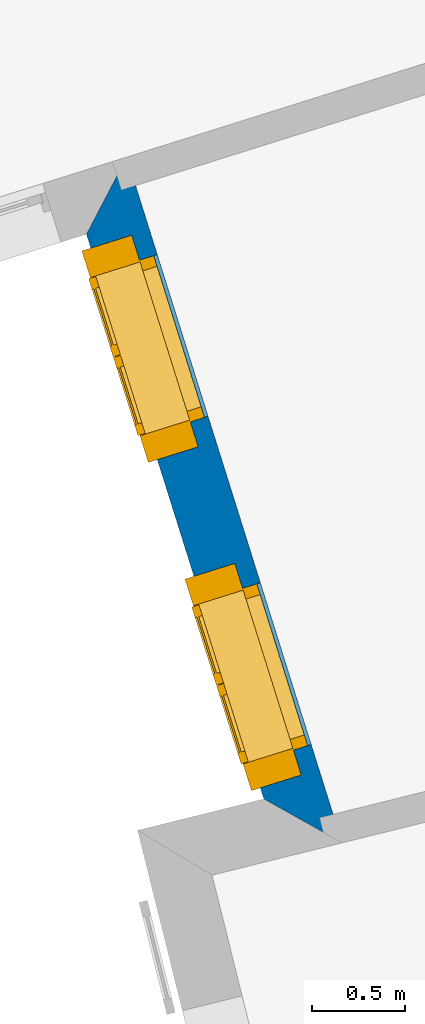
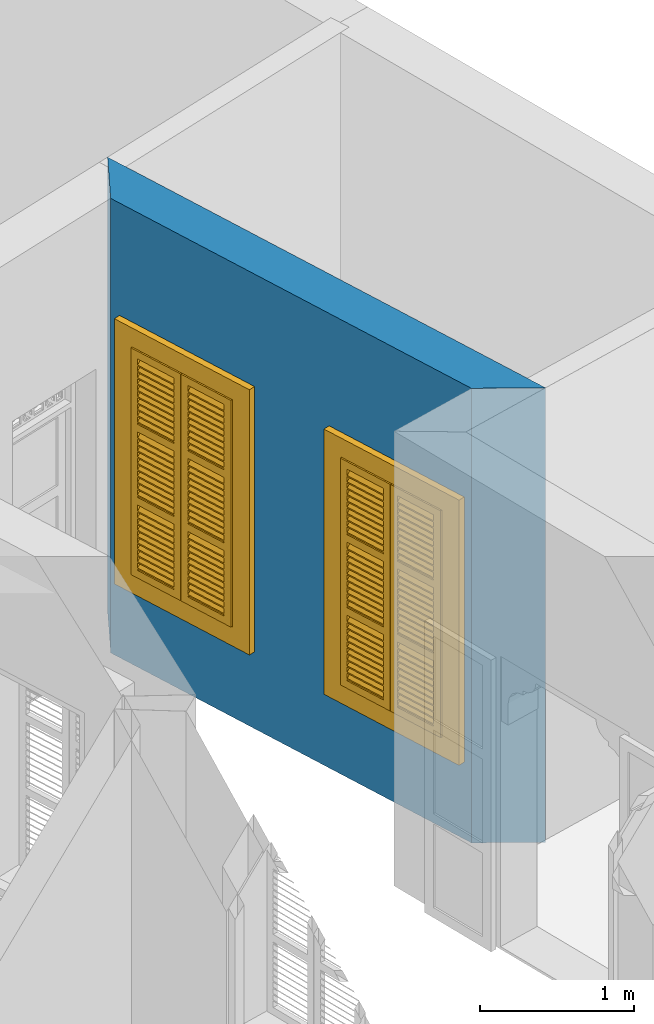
# One storey, part 12 of 14: 2 windows, 1 wall, 2 openings.
"""IFC4 building model written with IfcOpenShell, lengths in metres."""

from ifc_helpers import new_model, si_unit, frame, origin, origin_with_axes, place, context, subcontext, project, spatial, polyline, outline, extrude, faceted_brep, source, transform, mapped, material, layer, layer_set, layer_usage, type_object, type_shapes, element, fill, save


model = new_model("IFC4")

# Units and contexts
model_context = context("Model", 3, world=origin_with_axes())
body_context = subcontext(model_context, "Body", "Model", "MODEL_VIEW")
ifc_project = project(units=[si_unit("PLANEANGLEUNIT", "RADIAN"), si_unit("MASSUNIT", "GRAM", prefix="KILO"), si_unit("FORCEUNIT", "NEWTON", prefix="KILO"), si_unit("LENGTHUNIT", "METRE"), si_unit("AREAUNIT", "SQUARE_METRE"), si_unit("VOLUMEUNIT", "CUBIC_METRE")], contexts=[model_context, model_context])

# Site, building, storey
site_placement = place(None, origin_with_axes())
site = spatial("IfcSite", under=ifc_project, at=site_placement, Name="Site plot-0", CompositionType="ELEMENT")
building_placement = place(None, origin_with_axes())
building = spatial("IfcBuilding", under=site, at=building_placement, Name="Building plot-0", CompositionType="ELEMENT")
storey_placement = place(None, origin_with_axes())
storey = spatial("IfcBuildingStorey", under=building, at=storey_placement, Name="plot-0 0", CompositionType="ELEMENT", Elevation=0.0)

# Wall, openings, windows
ifc_material = material(Name="Masonry")
ifc_layer = layer(ifc_material, 0.33, ventilated=False)
ifc_layer_set = layer_set([ifc_layer], Name="exterior_0.08_0.25")
ifc_layer_usage = layer_usage(ifc_layer_set, "AXIS2", "POSITIVE", -0.25)
wall_type = type_object("IfcWallType", Name="exterior_0.08_0.25", PredefinedType="SOLIDWALL", material=ifc_layer_set)
wall_placement = place(storey_placement, frame((6.33844303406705, 9.76988483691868, 0.0), z_axis=(0.0, 0.0, 1.0), x_axis=(0.299724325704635, -0.954025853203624, 0.0)))
wall = element("IfcWall", 1, at=wall_placement, inside=storey, type_object=wall_type, material=ifc_layer_usage, Name="exterior", context=body_context, shape_type="SweptSolid", body=[
    extrude(outline(polyline([(-0.0799999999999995, 0.08), (0.249999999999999, -0.250000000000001), (3.4270756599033, -0.25), (3.77777085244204, 0.0799999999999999), (-0.0799999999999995, 0.08)])), origin_with_axes(), (0.0, 0.0, 1.0), 3.6),
])
opening_1_placement = place(wall_placement, frame((0.468188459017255, 0.0, 0.75)))
opening_1 = element("IfcOpeningElement", 2, at=opening_1_placement, cuts=wall, Name="My Opening", ObjectType="Opening", context=body_context, shape_type="SweptSolid", body=[
    extrude(outline(polyline([(0.0, -0.270000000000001), (0.910000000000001, -0.270000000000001), (0.91, 1.1), (-1.66533453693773e-16, 1.1), (0.0, -0.270000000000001)])), origin_with_axes(), (0.0, 0.0, 1.0), 1.82),
])
opening_2_placement = place(wall_placement, frame((2.31456537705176, 0.0, 0.75)))
opening_2 = element("IfcOpeningElement", 3, at=opening_2_placement, cuts=wall, Name="My Opening", ObjectType="Opening", context=body_context, shape_type="SweptSolid", body=[
    extrude(outline(polyline([(0.0, -0.27), (0.91, -0.27), (0.91, 1.1), (0.0, 1.1), (0.0, -0.27)])), origin_with_axes(), (0.0, 0.0, 1.0), 1.82),
])
window_type = type_object("IfcWindowType", Name="shuttered_big", PartitioningType="DOUBLE_PANEL_HORIZONTAL", PredefinedType="NOTDEFINED")
shared_shape = source(origin(), body_context, "Body", "Brep", [
    faceted_brep([(0.074, 0.0, 0.810667), (0.393, 0.0, 0.810667), (0.393, 0.0, 0.800667), (0.074, 0.0, 0.800667), (0.074, -0.04, 0.770667), (0.393, -0.04, 0.770667), (0.393, -0.04, 0.760667), (0.074, -0.04, 0.760667), (0.517, 0.0, 0.232), (0.836, 0.0, 0.232), (0.836, 0.0, 0.222), (0.517, 0.0, 0.222), (0.517, -0.04, 0.192), (0.836, -0.04, 0.192), (0.836, -0.04, 0.182), (0.517, -0.04, 0.182), (0.517, 0.0, 0.532), (0.836, 0.0, 0.532), (0.836, 0.0, 0.522), (0.517, 0.0, 0.522), (0.517, -0.04, 0.492), (0.836, -0.04, 0.492), (0.836, -0.04, 0.482), (0.517, -0.04, 0.482), (0.517, 0.0, 0.482), (0.836, 0.0, 0.482), (0.836, 0.0, 0.472), (0.517, 0.0, 0.472), (0.517, -0.04, 0.442), (0.836, -0.04, 0.442), (0.836, -0.04, 0.432), (0.517, -0.04, 0.432), (0.517, 0.0, 0.582), (0.836, 0.0, 0.582), (0.836, 0.0, 0.572), (0.517, 0.0, 0.572), (0.517, -0.04, 0.542), (0.836, -0.04, 0.542), (0.836, -0.04, 0.532), (0.517, -0.04, 0.532), (0.517, 0.0, 0.182), (0.836, 0.0, 0.182), (0.836, 0.0, 0.172), (0.517, 0.0, 0.172), (0.517, -0.04, 0.142), (0.836, -0.04, 0.142), (0.836, -0.04, 0.132), (0.517, -0.04, 0.132), (0.517, 0.0, 0.382), (0.836, 0.0, 0.382), (0.836, 0.0, 0.372), (0.517, 0.0, 0.372), (0.517, -0.04, 0.342), (0.836, -0.04, 0.342), (0.836, -0.04, 0.332), (0.517, -0.04, 0.332), (0.517, 0.0, 0.432), (0.836, 0.0, 0.432), (0.836, 0.0, 0.422), (0.517, 0.0, 0.422), (0.517, -0.04, 0.392), (0.836, -0.04, 0.392), (0.836, -0.04, 0.382), (0.517, -0.04, 0.382), (0.517, 0.0, 0.132), (0.836, 0.0, 0.132), (0.836, 0.0, 0.122), (0.517, 0.0, 0.122), (0.517, -0.04, 0.092), (0.836, -0.04, 0.092), (0.836, -0.04, 0.082), (0.517, -0.04, 0.082), (0.517, 0.0, 0.282), (0.836, 0.0, 0.282), (0.836, 0.0, 0.272), (0.517, 0.0, 0.272), (0.517, -0.04, 0.242), (0.836, -0.04, 0.242), (0.836, -0.04, 0.232), (0.517, -0.04, 0.232), (0.517, 0.0, 0.332), (0.836, 0.0, 0.332), (0.836, 0.0, 0.322), (0.517, 0.0, 0.322), (0.517, -0.04, 0.292), (0.836, -0.04, 0.292), (0.836, -0.04, 0.282), (0.517, -0.04, 0.282), (0.517, 0.0, 0.810667), (0.836, 0.0, 0.810667), (0.836, 0.0, 0.800667), (0.517, 0.0, 0.800667), (0.517, -0.04, 0.770667), (0.836, -0.04, 0.770667), (0.836, -0.04, 0.760667), (0.517, -0.04, 0.760667), (0.517, 0.0, 1.110667), (0.836, 0.0, 1.110667), (0.836, 0.0, 1.100667), (0.517, 0.0, 1.100667), (0.517, -0.04, 1.070667), (0.836, -0.04, 1.070667), (0.836, -0.04, 1.060667), (0.517, -0.04, 1.060667), (0.517, 0.0, 1.060667), (0.836, 0.0, 1.060667), (0.836, 0.0, 1.050667), (0.517, 0.0, 1.050667), (0.517, -0.04, 1.020667), (0.836, -0.04, 1.020667), (0.836, -0.04, 1.010667), (0.517, -0.04, 1.010667), (0.517, 0.0, 1.160667), (0.836, 0.0, 1.160667), (0.836, 0.0, 1.150667), (0.517, 0.0, 1.150667), (0.517, -0.04, 1.120667), (0.836, -0.04, 1.120667), (0.836, -0.04, 1.110667), (0.517, -0.04, 1.110667), (0.517, 0.0, 0.760667), (0.836, 0.0, 0.760667), (0.836, 0.0, 0.750667), (0.517, 0.0, 0.750667), (0.517, -0.04, 0.720667), (0.836, -0.04, 0.720667), (0.836, -0.04, 0.710667), (0.517, -0.04, 0.710667), (0.517, 0.0, 0.960667), (0.836, 0.0, 0.960667), (0.836, 0.0, 0.950667), (0.517, 0.0, 0.950667), (0.517, -0.04, 0.920667), (0.836, -0.04, 0.920667), (0.836, -0.04, 0.910667), (0.517, -0.04, 0.910667), (0.517, 0.0, 1.010667), (0.836, 0.0, 1.010667), (0.836, 0.0, 1.0), (0.517, 0.0, 1.0), (0.517, -0.04, 0.970667), (0.836, -0.04, 0.970667), (0.836, -0.04, 0.960667), (0.517, -0.04, 0.960667), (0.517, 0.0, 0.710667), (0.836, 0.0, 0.710667), (0.836, 0.0, 0.700667), (0.517, 0.0, 0.700667), (0.517, -0.04, 0.670667), (0.836, -0.04, 0.670667), (0.836, -0.04, 0.660667), (0.517, -0.04, 0.660667), (0.517, 0.0, 0.860667), (0.836, 0.0, 0.860667), (0.836, 0.0, 0.850667), (0.517, 0.0, 0.850667), (0.517, -0.04, 0.820667), (0.836, -0.04, 0.820667), (0.836, -0.04, 0.810667), (0.517, -0.04, 0.810667), (0.517, 0.0, 0.910667), (0.836, 0.0, 0.910667), (0.836, 0.0, 0.900667), (0.517, 0.0, 0.900667), (0.517, -0.04, 0.870667), (0.836, -0.04, 0.870667), (0.836, -0.04, 0.860667), (0.517, -0.04, 0.860667), (0.517, 0.0, 1.389333), (0.836, 0.0, 1.389333), (0.836, 0.0, 1.379333), (0.517, 0.0, 1.379333), (0.517, -0.04, 1.349333), (0.836, -0.04, 1.349333), (0.836, -0.04, 1.339333), (0.517, -0.04, 1.339333), (0.517, 0.0, 1.689333), (0.836, 0.0, 1.689333), (0.836, 0.0, 1.679333), (0.517, 0.0, 1.679333), (0.517, -0.04, 1.649333), (0.836, -0.04, 1.649333), (0.836, -0.04, 1.639333), (0.517, -0.04, 1.639333), (0.517, 0.0, 1.639333), (0.836, 0.0, 1.639333), (0.836, 0.0, 1.629333), (0.517, 0.0, 1.629333), (0.517, -0.04, 1.599333), (0.836, -0.04, 1.599333), (0.836, -0.04, 1.589333), (0.517, -0.04, 1.589333), (0.517, 0.0, 1.739333), (0.836, 0.0, 1.739333), (0.836, 0.0, 1.729333), (0.517, 0.0, 1.729333), (0.517, -0.04, 1.699333), (0.836, -0.04, 1.699333), (0.836, -0.04, 1.689333), (0.517, -0.04, 1.689333), (0.517, 0.0, 1.339333), (0.836, 0.0, 1.339333), (0.836, 0.0, 1.329333), (0.517, 0.0, 1.329333), (0.517, -0.04, 1.299333), (0.836, -0.04, 1.299333), (0.836, -0.04, 1.289333), (0.517, -0.04, 1.289333), (0.517, 0.0, 1.539333), (0.836, 0.0, 1.539333), (0.836, 0.0, 1.529333), (0.517, 0.0, 1.529333), (0.517, -0.04, 1.499333), (0.836, -0.04, 1.499333), (0.836, -0.04, 1.489333), (0.517, -0.04, 1.489333), (0.517, 0.0, 1.589333), (0.836, 0.0, 1.589333), (0.836, 0.0, 1.579333), (0.517, 0.0, 1.579333), (0.517, -0.04, 1.549333), (0.836, -0.04, 1.549333), (0.836, -0.04, 1.539333), (0.517, -0.04, 1.539333), (0.517, 0.0, 1.289333), (0.836, 0.0, 1.289333), (0.836, 0.0, 1.279333), (0.517, 0.0, 1.279333), (0.517, -0.04, 1.249333), (0.836, -0.04, 1.249333), (0.836, -0.04, 1.239333), (0.517, -0.04, 1.239333), (0.517, 0.0, 1.439333), (0.836, 0.0, 1.439333), (0.836, 0.0, 1.429333), (0.517, 0.0, 1.429333), (0.517, -0.04, 1.399333), (0.836, -0.04, 1.399333), (0.836, -0.04, 1.389333), (0.517, -0.04, 1.389333), (0.517, 0.0, 1.489333), (0.836, 0.0, 1.489333), (0.836, 0.0, 1.479333), (0.517, 0.0, 1.479333), (0.517, -0.04, 1.449333), (0.836, -0.04, 1.449333), (0.836, -0.04, 1.439333), (0.517, -0.04, 1.439333), (0.074, 0.0, 0.232), (0.393, 0.0, 0.232), (0.393, 0.0, 0.222), (0.074, 0.0, 0.222), (0.074, -0.04, 0.192), (0.393, -0.04, 0.192), (0.393, -0.04, 0.182), (0.074, -0.04, 0.182), (0.074, 0.0, 0.532), (0.393, 0.0, 0.532), (0.393, 0.0, 0.522), (0.074, 0.0, 0.522), (0.074, -0.04, 0.492), (0.393, -0.04, 0.492), (0.393, -0.04, 0.482), (0.074, -0.04, 0.482), (0.074, 0.0, 0.482), (0.393, 0.0, 0.482), (0.393, 0.0, 0.472), (0.074, 0.0, 0.472), (0.074, -0.04, 0.442), (0.393, -0.04, 0.442), (0.393, -0.04, 0.432), (0.074, -0.04, 0.432), (0.074, 0.0, 0.582), (0.393, 0.0, 0.582), (0.393, 0.0, 0.572), (0.074, 0.0, 0.572), (0.074, -0.04, 0.542), (0.393, -0.04, 0.542), (0.393, -0.04, 0.532), (0.074, -0.04, 0.532), (0.074, 0.0, 0.182), (0.393, 0.0, 0.182), (0.393, 0.0, 0.172), (0.074, 0.0, 0.172), (0.074, -0.04, 0.142), (0.393, -0.04, 0.142), (0.393, -0.04, 0.132), (0.074, -0.04, 0.132), (0.074, 0.0, 0.382), (0.393, 0.0, 0.382), (0.393, 0.0, 0.372), (0.074, 0.0, 0.372), (0.074, -0.04, 0.342), (0.393, -0.04, 0.342), (0.393, -0.04, 0.332), (0.074, -0.04, 0.332), (0.074, 0.0, 0.432), (0.393, 0.0, 0.432), (0.393, 0.0, 0.422), (0.074, 0.0, 0.422), (0.074, -0.04, 0.392), (0.393, -0.04, 0.392), (0.393, -0.04, 0.382), (0.074, -0.04, 0.382), (0.074, 0.0, 0.132), (0.393, 0.0, 0.132), (0.393, 0.0, 0.122), (0.074, 0.0, 0.122), (0.074, -0.04, 0.092), (0.393, -0.04, 0.092), (0.393, -0.04, 0.082), (0.074, -0.04, 0.082), (0.074, 0.0, 0.282), (0.393, 0.0, 0.282), (0.393, 0.0, 0.272), (0.074, 0.0, 0.272), (0.074, -0.04, 0.242), (0.393, -0.04, 0.242), (0.393, -0.04, 0.232), (0.074, -0.04, 0.232), (0.074, 0.0, 0.332), (0.393, 0.0, 0.332), (0.393, 0.0, 0.322), (0.074, 0.0, 0.322), (0.074, -0.04, 0.292), (0.393, -0.04, 0.292), (0.393, -0.04, 0.282), (0.074, -0.04, 0.282), (0.074, 0.0, 1.110667), (0.393, 0.0, 1.110667), (0.393, 0.0, 1.100667), (0.074, 0.0, 1.100667), (0.074, -0.04, 1.070667), (0.393, -0.04, 1.070667), (0.393, -0.04, 1.060667), (0.074, -0.04, 1.060667), (0.074, 0.0, 1.060667), (0.393, 0.0, 1.060667), (0.393, 0.0, 1.050667), (0.074, 0.0, 1.050667), (0.074, -0.04, 1.020667), (0.393, -0.04, 1.020667), (0.393, -0.04, 1.010667), (0.074, -0.04, 1.010667), (0.074, 0.0, 1.160667), (0.393, 0.0, 1.160667), (0.393, 0.0, 1.150667), (0.074, 0.0, 1.150667), (0.074, -0.04, 1.120667), (0.393, -0.04, 1.120667), (0.393, -0.04, 1.110667), (0.074, -0.04, 1.110667), (0.074, 0.0, 0.760667), (0.393, 0.0, 0.760667), (0.393, 0.0, 0.750667), (0.074, 0.0, 0.750667), (0.074, -0.04, 0.720667), (0.393, -0.04, 0.720667), (0.393, -0.04, 0.710667), (0.074, -0.04, 0.710667), (0.074, 0.0, 0.960667), (0.393, 0.0, 0.960667), (0.393, 0.0, 0.950667), (0.074, 0.0, 0.950667), (0.074, -0.04, 0.920667), (0.393, -0.04, 0.920667), (0.393, -0.04, 0.910667), (0.074, -0.04, 0.910667), (0.074, 0.0, 1.010667), (0.393, 0.0, 1.010667), (0.393, 0.0, 1.0), (0.074, 0.0, 1.0), (0.074, -0.04, 0.970667), (0.393, -0.04, 0.970667), (0.393, -0.04, 0.960667), (0.074, -0.04, 0.960667), (0.074, 0.0, 0.710667), (0.393, 0.0, 0.710667), (0.393, 0.0, 0.700667), (0.074, 0.0, 0.700667), (0.074, -0.04, 0.670667), (0.393, -0.04, 0.670667), (0.393, -0.04, 0.660667), (0.074, -0.04, 0.660667), (0.074, 0.0, 0.860667), (0.393, 0.0, 0.860667), (0.393, 0.0, 0.850667), (0.074, 0.0, 0.850667), (0.074, -0.04, 0.820667), (0.393, -0.04, 0.820667), (0.393, -0.04, 0.810667), (0.074, -0.04, 0.810667), (0.074, 0.0, 0.910667), (0.393, 0.0, 0.910667), (0.393, 0.0, 0.900667), (0.074, 0.0, 0.900667), (0.074, -0.04, 0.870667), (0.393, -0.04, 0.870667), (0.393, -0.04, 0.860667), (0.074, -0.04, 0.860667), (0.074, 0.0, 1.389333), (0.393, 0.0, 1.389333), (0.393, 0.0, 1.379333), (0.074, 0.0, 1.379333), (0.074, -0.04, 1.349333), (0.393, -0.04, 1.349333), (0.393, -0.04, 1.339333), (0.074, -0.04, 1.339333), (0.074, 0.0, 1.689333), (0.393, 0.0, 1.689333), (0.393, 0.0, 1.679333), (0.074, 0.0, 1.679333), (0.074, -0.04, 1.649333), (0.393, -0.04, 1.649333), (0.393, -0.04, 1.639333), (0.074, -0.04, 1.639333), (0.074, 0.0, 1.639333), (0.393, 0.0, 1.639333), (0.393, 0.0, 1.629333), (0.074, 0.0, 1.629333), (0.074, -0.04, 1.599333), (0.393, -0.04, 1.599333), (0.393, -0.04, 1.589333), (0.074, -0.04, 1.589333), (0.074, 0.0, 1.739333), (0.393, 0.0, 1.739333), (0.393, 0.0, 1.729333), (0.074, 0.0, 1.729333), (0.074, -0.04, 1.699333), (0.393, -0.04, 1.699333), (0.393, -0.04, 1.689333), (0.074, -0.04, 1.689333), (0.074, 0.0, 1.339333), (0.393, 0.0, 1.339333), (0.393, 0.0, 1.329333), (0.074, 0.0, 1.329333), (0.074, -0.04, 1.299333), (0.393, -0.04, 1.299333), (0.393, -0.04, 1.289333), (0.074, -0.04, 1.289333), (0.074, 0.0, 1.539333), (0.393, 0.0, 1.539333), (0.393, 0.0, 1.529333), (0.074, 0.0, 1.529333), (0.074, -0.04, 1.499333), (0.393, -0.04, 1.499333), (0.393, -0.04, 1.489333), (0.074, -0.04, 1.489333), (0.074, 0.0, 1.589333), (0.393, 0.0, 1.589333), (0.393, 0.0, 1.579333), (0.074, 0.0, 1.579333), (0.074, -0.04, 1.549333), (0.393, -0.04, 1.549333), (0.393, -0.04, 1.539333), (0.074, -0.04, 1.539333), (0.074, 0.0, 1.289333), (0.393, 0.0, 1.289333), (0.393, 0.0, 1.279333), (0.074, 0.0, 1.279333), (0.074, -0.04, 1.249333), (0.393, -0.04, 1.249333), (0.393, -0.04, 1.239333), (0.074, -0.04, 1.239333), (0.074, 0.0, 1.439333), (0.393, 0.0, 1.439333), (0.393, 0.0, 1.429333), (0.074, 0.0, 1.429333), (0.074, -0.04, 1.399333), (0.393, -0.04, 1.399333), (0.393, -0.04, 1.389333), (0.074, -0.04, 1.389333), (0.074, 0.0, 1.489333), (0.393, 0.0, 1.489333), (0.393, 0.0, 1.479333), (0.074, 0.0, 1.479333), (0.074, -0.04, 1.449333), (0.393, -0.04, 1.449333), (0.393, -0.04, 1.439333), (0.074, -0.04, 1.439333), (0.517, -0.04, 0.072), (0.457, -0.04, 0.012), (0.896, -0.04, 0.012), (0.836, -0.04, 0.072), (0.457, -0.04, 0.590667), (0.517, -0.04, 0.590667), (0.457, 0.0, 0.012), (0.896, 0.0, 0.012), (0.836, -0.04, 0.590667), (0.896, -0.04, 0.590667), (0.836, 0.0, 0.072), (0.517, 0.0, 0.072), (0.457, 0.0, 0.590667), (0.517, 0.0, 0.590667), (0.517, -0.04, 0.650667), (0.457, -0.04, 0.650667), (0.896, 0.0, 0.590667), (0.836, 0.0, 0.590667), (0.836, -0.04, 0.650667), (0.896, -0.04, 0.650667), (0.457, 0.0, 0.650667), (0.457, -0.04, 1.169333), (0.517, -0.04, 1.169333), (0.896, 0.0, 0.650667), (0.836, -0.04, 1.169333), (0.896, -0.04, 1.169333), (0.457, 0.0, 1.169333), (0.517, 0.0, 0.650667), (0.836, 0.0, 0.650667), (0.517, 0.0, 1.169333), (0.517, -0.04, 1.229333), (0.457, -0.04, 1.229333), (0.896, 0.0, 1.169333), (0.836, 0.0, 1.169333), (0.836, -0.04, 1.229333), (0.896, -0.04, 1.229333), (0.457, 0.0, 1.229333), (0.517, -0.04, 1.748), (0.457, -0.04, 1.808), (0.896, 0.0, 1.229333), (0.896, -0.04, 1.808), (0.836, -0.04, 1.748), (0.457, 0.0, 1.808), (0.517, 0.0, 1.229333), (0.836, 0.0, 1.229333), (0.517, 0.0, 1.748), (0.896, 0.0, 1.808), (0.836, 0.0, 1.748), (0.074, -0.04, 0.072), (0.014, -0.04, 0.012), (0.453, -0.04, 0.012), (0.393, -0.04, 0.072), (0.014, -0.04, 0.590667), (0.074, -0.04, 0.590667), (0.014, 0.0, 0.012), (0.453, 0.0, 0.012), (0.393, -0.04, 0.590667), (0.453, -0.04, 0.590667), (0.393, 0.0, 0.072), (0.074, 0.0, 0.072), (0.014, 0.0, 0.590667), (0.074, 0.0, 0.590667), (0.074, -0.04, 0.650667), (0.014, -0.04, 0.650667), (0.453, 0.0, 0.590667), (0.393, 0.0, 0.590667), (0.393, -0.04, 0.650667), (0.453, -0.04, 0.650667), (0.014, 0.0, 0.650667), (0.014, -0.04, 1.169333), (0.074, -0.04, 1.169333), (0.453, 0.0, 0.650667), (0.393, -0.04, 1.169333), (0.453, -0.04, 1.169333), (0.014, 0.0, 1.169333), (0.074, 0.0, 0.650667), (0.393, 0.0, 0.650667), (0.074, 0.0, 1.169333), (0.074, -0.04, 1.229333), (0.014, -0.04, 1.229333), (0.453, 0.0, 1.169333), (0.393, 0.0, 1.169333), (0.393, -0.04, 1.229333), (0.453, -0.04, 1.229333), (0.014, 0.0, 1.229333), (0.074, -0.04, 1.748), (0.014, -0.04, 1.808), (0.453, 0.0, 1.229333), (0.453, -0.04, 1.808), (0.393, -0.04, 1.748), (0.014, 0.0, 1.808), (0.074, 0.0, 1.229333), (0.393, 0.0, 1.229333), (0.074, 0.0, 1.748), (0.453, 0.0, 1.808), (0.393, 0.0, 1.748), (0.0, 0.33, 1.82), (0.91, 0.33, 1.82), (0.85, 0.33, 1.76), (0.06, 0.33, 1.76), (1.05, -0.03, 1.96), (1.05, 0.25, 1.96), (-0.14, 0.25, 1.96), (-0.14, -0.03, 1.96), (0.0, 0.25, 1.82), (0.91, 0.25, 1.82), (0.9, 0.25, 1.81), (0.01, 0.25, 1.81), (0.85, 0.33, 0.06), (0.91, 0.33, 0.0), (0.85, 0.25, 1.76), (0.06, 0.25, 1.76), (0.0, 0.33, 0.0), (0.06, 0.33, 0.06), (0.0, 0.25, 0.0), (0.910046, 0.25, 1.82), (0.91, 0.25, 0.0), (0.85, 0.25, 0.06), (0.06, 0.25, 0.06), (0.9, 0.25, 0.01), (0.9, -0.03, 0.01), (0.9, -0.03, 1.81), (0.01, -0.03, 0.01), (-0.14, -0.03, -0.14), (1.05, -0.03, -0.14), (0.01, -0.03, 1.81), (0.01, 0.25, 0.01), (1.05, 0.25, -0.14), (-0.14, 0.25, -0.14)], [[[0, 1, 2, 3]], [[1, 0, 4, 5]], [[2, 1, 5, 6]], [[6, 7, 3, 2]], [[7, 4, 0, 3]], [[5, 4, 7, 6]], [[8, 9, 10, 11]], [[12, 13, 9, 8]], [[13, 14, 10, 9]], [[14, 15, 11, 10]], [[15, 12, 8, 11]], [[13, 12, 15, 14]], [[16, 17, 18, 19]], [[20, 21, 17, 16]], [[21, 22, 18, 17]], [[22, 23, 19, 18]], [[23, 20, 16, 19]], [[21, 20, 23, 22]], [[24, 25, 26, 27]], [[28, 29, 25, 24]], [[29, 30, 26, 25]], [[30, 31, 27, 26]], [[31, 28, 24, 27]], [[29, 28, 31, 30]], [[32, 33, 34, 35]], [[36, 37, 33, 32]], [[37, 38, 34, 33]], [[38, 39, 35, 34]], [[39, 36, 32, 35]], [[37, 36, 39, 38]], [[40, 41, 42, 43]], [[44, 45, 41, 40]], [[45, 46, 42, 41]], [[46, 47, 43, 42]], [[47, 44, 40, 43]], [[45, 44, 47, 46]], [[48, 49, 50, 51]], [[52, 53, 49, 48]], [[53, 54, 50, 49]], [[54, 55, 51, 50]], [[55, 52, 48, 51]], [[53, 52, 55, 54]], [[56, 57, 58, 59]], [[60, 61, 57, 56]], [[61, 62, 58, 57]], [[62, 63, 59, 58]], [[63, 60, 56, 59]], [[61, 60, 63, 62]], [[64, 65, 66, 67]], [[68, 69, 65, 64]], [[69, 70, 66, 65]], [[70, 71, 67, 66]], [[71, 68, 64, 67]], [[69, 68, 71, 70]], [[72, 73, 74, 75]], [[76, 77, 73, 72]], [[77, 78, 74, 73]], [[78, 79, 75, 74]], [[79, 76, 72, 75]], [[77, 76, 79, 78]], [[80, 81, 82, 83]], [[84, 85, 81, 80]], [[85, 86, 82, 81]], [[86, 87, 83, 82]], [[87, 84, 80, 83]], [[85, 84, 87, 86]], [[88, 89, 90, 91]], [[92, 93, 89, 88]], [[93, 94, 90, 89]], [[94, 95, 91, 90]], [[95, 92, 88, 91]], [[93, 92, 95, 94]], [[96, 97, 98, 99]], [[100, 101, 97, 96]], [[101, 102, 98, 97]], [[102, 103, 99, 98]], [[103, 100, 96, 99]], [[101, 100, 103, 102]], [[104, 105, 106, 107]], [[108, 109, 105, 104]], [[109, 110, 106, 105]], [[110, 111, 107, 106]], [[111, 108, 104, 107]], [[109, 108, 111, 110]], [[112, 113, 114, 115]], [[116, 117, 113, 112]], [[117, 118, 114, 113]], [[118, 119, 115, 114]], [[119, 116, 112, 115]], [[117, 116, 119, 118]], [[120, 121, 122, 123]], [[124, 125, 121, 120]], [[125, 126, 122, 121]], [[126, 127, 123, 122]], [[127, 124, 120, 123]], [[125, 124, 127, 126]], [[128, 129, 130, 131]], [[132, 133, 129, 128]], [[133, 134, 130, 129]], [[134, 135, 131, 130]], [[135, 132, 128, 131]], [[133, 132, 135, 134]], [[136, 137, 138, 139]], [[140, 141, 137, 136]], [[141, 142, 138, 137]], [[142, 143, 139, 138]], [[143, 140, 136, 139]], [[141, 140, 143, 142]], [[144, 145, 146, 147]], [[148, 149, 145, 144]], [[149, 150, 146, 145]], [[150, 151, 147, 146]], [[151, 148, 144, 147]], [[149, 148, 151, 150]], [[152, 153, 154, 155]], [[156, 157, 153, 152]], [[157, 158, 154, 153]], [[158, 159, 155, 154]], [[159, 156, 152, 155]], [[157, 156, 159, 158]], [[160, 161, 162, 163]], [[164, 165, 161, 160]], [[165, 166, 162, 161]], [[166, 167, 163, 162]], [[167, 164, 160, 163]], [[165, 164, 167, 166]], [[168, 169, 170, 171]], [[172, 173, 169, 168]], [[173, 174, 170, 169]], [[174, 175, 171, 170]], [[175, 172, 168, 171]], [[173, 172, 175, 174]], [[176, 177, 178, 179]], [[180, 181, 177, 176]], [[181, 182, 178, 177]], [[182, 183, 179, 178]], [[183, 180, 176, 179]], [[181, 180, 183, 182]], [[184, 185, 186, 187]], [[188, 189, 185, 184]], [[189, 190, 186, 185]], [[190, 191, 187, 186]], [[191, 188, 184, 187]], [[189, 188, 191, 190]], [[192, 193, 194, 195]], [[196, 197, 193, 192]], [[197, 198, 194, 193]], [[198, 199, 195, 194]], [[199, 196, 192, 195]], [[197, 196, 199, 198]], [[200, 201, 202, 203]], [[204, 205, 201, 200]], [[205, 206, 202, 201]], [[206, 207, 203, 202]], [[207, 204, 200, 203]], [[205, 204, 207, 206]], [[208, 209, 210, 211]], [[212, 213, 209, 208]], [[213, 214, 210, 209]], [[214, 215, 211, 210]], [[215, 212, 208, 211]], [[213, 212, 215, 214]], [[216, 217, 218, 219]], [[220, 221, 217, 216]], [[221, 222, 218, 217]], [[222, 223, 219, 218]], [[223, 220, 216, 219]], [[221, 220, 223, 222]], [[224, 225, 226, 227]], [[228, 229, 225, 224]], [[229, 230, 226, 225]], [[230, 231, 227, 226]], [[231, 228, 224, 227]], [[229, 228, 231, 230]], [[232, 233, 234, 235]], [[236, 237, 233, 232]], [[237, 238, 234, 233]], [[238, 239, 235, 234]], [[239, 236, 232, 235]], [[237, 236, 239, 238]], [[240, 241, 242, 243]], [[244, 245, 241, 240]], [[245, 246, 242, 241]], [[246, 247, 243, 242]], [[247, 244, 240, 243]], [[245, 244, 247, 246]], [[248, 249, 250, 251]], [[252, 253, 249, 248]], [[253, 254, 250, 249]], [[254, 255, 251, 250]], [[255, 252, 248, 251]], [[253, 252, 255, 254]], [[256, 257, 258, 259]], [[260, 261, 257, 256]], [[261, 262, 258, 257]], [[262, 263, 259, 258]], [[263, 260, 256, 259]], [[261, 260, 263, 262]], [[264, 265, 266, 267]], [[268, 269, 265, 264]], [[269, 270, 266, 265]], [[270, 271, 267, 266]], [[271, 268, 264, 267]], [[269, 268, 271, 270]], [[272, 273, 274, 275]], [[276, 277, 273, 272]], [[277, 278, 274, 273]], [[278, 279, 275, 274]], [[279, 276, 272, 275]], [[277, 276, 279, 278]], [[280, 281, 282, 283]], [[284, 285, 281, 280]], [[285, 286, 282, 281]], [[286, 287, 283, 282]], [[287, 284, 280, 283]], [[285, 284, 287, 286]], [[288, 289, 290, 291]], [[292, 293, 289, 288]], [[293, 294, 290, 289]], [[294, 295, 291, 290]], [[295, 292, 288, 291]], [[293, 292, 295, 294]], [[296, 297, 298, 299]], [[300, 301, 297, 296]], [[301, 302, 298, 297]], [[302, 303, 299, 298]], [[303, 300, 296, 299]], [[301, 300, 303, 302]], [[304, 305, 306, 307]], [[308, 309, 305, 304]], [[309, 310, 306, 305]], [[310, 311, 307, 306]], [[311, 308, 304, 307]], [[309, 308, 311, 310]], [[312, 313, 314, 315]], [[316, 317, 313, 312]], [[317, 318, 314, 313]], [[318, 319, 315, 314]], [[319, 316, 312, 315]], [[317, 316, 319, 318]], [[320, 321, 322, 323]], [[324, 325, 321, 320]], [[325, 326, 322, 321]], [[326, 327, 323, 322]], [[327, 324, 320, 323]], [[325, 324, 327, 326]], [[328, 329, 330, 331]], [[332, 333, 329, 328]], [[333, 334, 330, 329]], [[334, 335, 331, 330]], [[335, 332, 328, 331]], [[333, 332, 335, 334]], [[336, 337, 338, 339]], [[340, 341, 337, 336]], [[341, 342, 338, 337]], [[342, 343, 339, 338]], [[343, 340, 336, 339]], [[341, 340, 343, 342]], [[344, 345, 346, 347]], [[348, 349, 345, 344]], [[349, 350, 346, 345]], [[350, 351, 347, 346]], [[351, 348, 344, 347]], [[349, 348, 351, 350]], [[352, 353, 354, 355]], [[356, 357, 353, 352]], [[357, 358, 354, 353]], [[358, 359, 355, 354]], [[359, 356, 352, 355]], [[357, 356, 359, 358]], [[360, 361, 362, 363]], [[364, 365, 361, 360]], [[365, 366, 362, 361]], [[366, 367, 363, 362]], [[367, 364, 360, 363]], [[366, 365, 364, 367]], [[368, 369, 370, 371]], [[372, 373, 369, 368]], [[373, 374, 370, 369]], [[374, 375, 371, 370]], [[375, 372, 368, 371]], [[373, 372, 375, 374]], [[376, 377, 378, 379]], [[380, 381, 377, 376]], [[381, 382, 378, 377]], [[382, 383, 379, 378]], [[383, 380, 376, 379]], [[381, 380, 383, 382]], [[384, 385, 386, 387]], [[388, 389, 385, 384]], [[389, 390, 386, 385]], [[390, 391, 387, 386]], [[391, 388, 384, 387]], [[389, 388, 391, 390]], [[392, 393, 394, 395]], [[396, 397, 393, 392]], [[397, 398, 394, 393]], [[398, 399, 395, 394]], [[399, 396, 392, 395]], [[397, 396, 399, 398]], [[400, 401, 402, 403]], [[404, 405, 401, 400]], [[405, 406, 402, 401]], [[406, 407, 403, 402]], [[407, 404, 400, 403]], [[405, 404, 407, 406]], [[408, 409, 410, 411]], [[412, 413, 409, 408]], [[413, 414, 410, 409]], [[414, 415, 411, 410]], [[415, 412, 408, 411]], [[414, 413, 412, 415]], [[416, 417, 418, 419]], [[420, 421, 417, 416]], [[421, 422, 418, 417]], [[422, 423, 419, 418]], [[423, 420, 416, 419]], [[421, 420, 423, 422]], [[424, 425, 426, 427]], [[428, 429, 425, 424]], [[429, 430, 426, 425]], [[430, 431, 427, 426]], [[431, 428, 424, 427]], [[429, 428, 431, 430]], [[432, 433, 434, 435]], [[436, 437, 433, 432]], [[437, 438, 434, 433]], [[438, 439, 435, 434]], [[439, 436, 432, 435]], [[437, 436, 439, 438]], [[440, 441, 442, 443]], [[444, 445, 441, 440]], [[445, 446, 442, 441]], [[446, 447, 443, 442]], [[447, 444, 440, 443]], [[445, 444, 447, 446]], [[448, 449, 450, 451]], [[452, 453, 449, 448]], [[453, 454, 450, 449]], [[454, 455, 451, 450]], [[455, 452, 448, 451]], [[453, 452, 455, 454]], [[456, 457, 458, 459]], [[460, 461, 457, 456]], [[461, 462, 458, 457]], [[462, 463, 459, 458]], [[463, 460, 456, 459]], [[461, 460, 463, 462]], [[464, 465, 466, 467]], [[468, 469, 465, 464]], [[469, 470, 466, 465]], [[470, 471, 467, 466]], [[471, 468, 464, 467]], [[469, 468, 471, 470]], [[472, 473, 474, 475]], [[476, 477, 473, 472]], [[477, 478, 474, 473]], [[478, 479, 475, 474]], [[479, 476, 472, 475]], [[477, 476, 479, 478]], [[480, 481, 482, 483]], [[484, 481, 480, 485]], [[486, 487, 482, 481]], [[488, 483, 482, 489]], [[480, 483, 490, 491]], [[486, 481, 484, 492]], [[485, 480, 491, 493]], [[485, 494, 495, 484]], [[486, 491, 490, 487]], [[496, 489, 482, 487]], [[483, 488, 497, 490]], [[498, 488, 489, 499]], [[492, 484, 495, 500]], [[486, 492, 493, 491]], [[488, 485, 493, 497]], [[494, 485, 488, 498]], [[501, 495, 494, 502]], [[490, 497, 496, 487]], [[503, 499, 489, 496]], [[504, 498, 499, 505]], [[500, 495, 501, 506]], [[507, 493, 492, 500]], [[493, 507, 508, 497]], [[494, 498, 508, 507]], [[502, 494, 507, 509]], [[502, 510, 511, 501]], [[497, 508, 503, 496]], [[512, 505, 499, 503]], [[498, 504, 513, 508]], [[514, 504, 505, 515]], [[506, 501, 511, 516]], [[500, 506, 509, 507]], [[504, 502, 509, 513]], [[510, 502, 504, 514]], [[510, 517, 518, 511]], [[508, 513, 512, 503]], [[519, 515, 505, 512]], [[515, 520, 521, 514]], [[516, 511, 518, 522]], [[523, 509, 506, 516]], [[509, 523, 524, 513]], [[510, 514, 524, 523]], [[517, 510, 523, 525]], [[518, 517, 521, 520]], [[513, 524, 519, 512]], [[526, 520, 515, 519]], [[514, 521, 527, 524]], [[522, 518, 520, 526]], [[525, 523, 516, 522]], [[521, 517, 525, 527]], [[526, 519, 524, 527]], [[525, 522, 526, 527]], [[528, 529, 530, 531]], [[532, 529, 528, 533]], [[534, 535, 530, 529]], [[536, 531, 530, 537]], [[528, 531, 538, 539]], [[534, 529, 532, 540]], [[533, 528, 539, 541]], [[533, 542, 543, 532]], [[534, 539, 538, 535]], [[544, 537, 530, 535]], [[531, 536, 545, 538]], [[546, 536, 537, 547]], [[540, 532, 543, 548]], [[534, 540, 541, 539]], [[536, 533, 541, 545]], [[542, 533, 536, 546]], [[549, 543, 542, 550]], [[538, 545, 544, 535]], [[551, 547, 537, 544]], [[552, 546, 547, 553]], [[548, 543, 549, 554]], [[555, 541, 540, 548]], [[541, 555, 556, 545]], [[542, 546, 556, 555]], [[550, 542, 555, 557]], [[550, 558, 559, 549]], [[545, 556, 551, 544]], [[560, 553, 547, 551]], [[546, 552, 561, 556]], [[562, 552, 553, 563]], [[554, 549, 559, 564]], [[548, 554, 557, 555]], [[552, 550, 557, 561]], [[558, 550, 552, 562]], [[558, 565, 566, 559]], [[556, 561, 560, 551]], [[567, 563, 553, 560]], [[563, 568, 569, 562]], [[564, 559, 566, 570]], [[571, 557, 554, 564]], [[557, 571, 572, 561]], [[558, 562, 572, 571]], [[565, 558, 571, 573]], [[566, 565, 569, 568]], [[561, 572, 567, 560]], [[574, 568, 563, 567]], [[562, 569, 575, 572]], [[570, 566, 568, 574]], [[573, 571, 564, 570]], [[569, 565, 573, 575]], [[574, 567, 572, 575]], [[573, 570, 574, 575]], [[576, 577, 578, 579]], [[580, 581, 582, 583]], [[576, 584, 585, 577]], [[582, 581, 586, 587]], [[588, 578, 577, 589]], [[579, 578, 590, 591]], [[592, 576, 579, 593]], [[576, 592, 594, 584]], [[595, 584, 591, 590]], [[596, 585, 595]], [[595, 590, 597]], [[595, 597, 596]], [[589, 577, 585, 596]], [[578, 588, 597, 590]], [[589, 592, 593, 588]], [[593, 579, 591, 598]], [[592, 589, 596, 594]], [[598, 591, 584, 594]], [[594, 596, 597, 598]], [[588, 593, 598, 597]], [[599, 600, 601, 586]], [[602, 603, 604, 600]], [[601, 605, 587, 586]], [[600, 599, 606, 602]], [[607, 604, 603, 608]], [[599, 607, 608, 606]], [[605, 602, 606, 587]], [[602, 605, 583, 603]], [[600, 604, 580, 601]], [[580, 583, 605, 601]], [[606, 608, 582, 587]], [[599, 586, 581, 607]], [[582, 608, 603, 583]], [[580, 604, 607, 581]]]),
])
type_shapes(window_type, [shared_shape])
window_1_placement = place(storey_placement, frame((6.22118352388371, 9.2422953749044, 0.75), z_axis=(0.0, 0.0, 1.0), x_axis=(0.272749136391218, -0.868163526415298, 0.0)))
window_1 = element("IfcWindow", 4, at=window_1_placement, inside=storey, type_object=window_type, Name="toilet sahn window", OverallHeight=1.82, OverallWidth=0.91, context=body_context, shape_type="MappedRepresentation", body=[
    mapped(shared_shape, transform((0.0, 0.0, 0.0), scale=1.0)),
])
fill(opening_1, window_1)
window_2_placement = place(storey_placement, frame((6.77458760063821, 7.48080406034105, 0.75), z_axis=(0.0, 0.0, 1.0), x_axis=(0.272749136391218, -0.868163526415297, 0.0)))
window_2 = element("IfcWindow", 5, at=window_2_placement, inside=storey, type_object=window_type, Name="toilet sahn window", OverallHeight=1.82, OverallWidth=0.91, context=body_context, shape_type="MappedRepresentation", body=[
    mapped(shared_shape, transform((0.0, 0.0, 0.0), scale=1.0)),
])
fill(opening_2, window_2)

save(model, "model.ifc")
